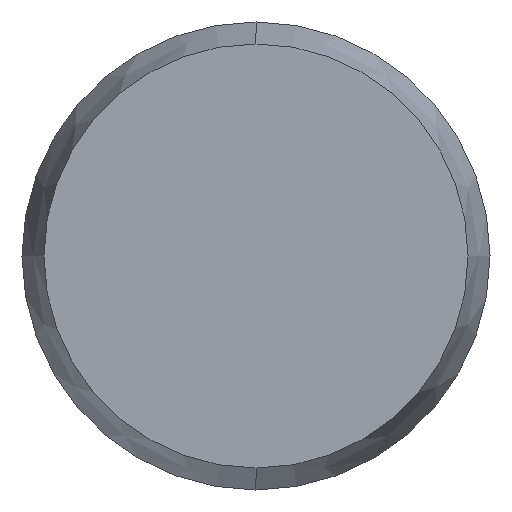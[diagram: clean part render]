
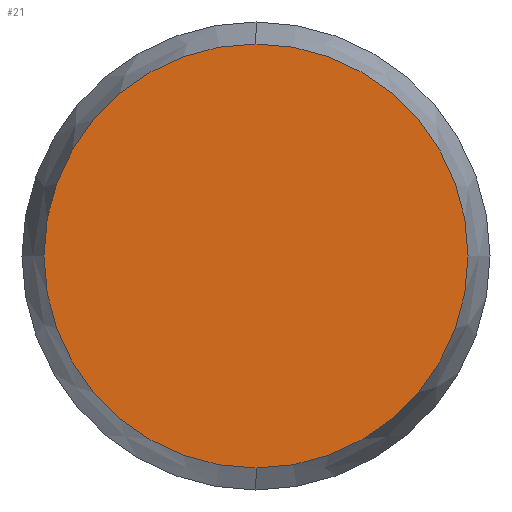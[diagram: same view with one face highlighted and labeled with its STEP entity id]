
A CAD part, left-side view. The second image highlights one B-rep face of the part: STEP entity #21.
In plain terms, the highlighted planar face has unit normal (-1, 0, 0).
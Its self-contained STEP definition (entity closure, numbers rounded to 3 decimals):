
#6 = ORIENTED_EDGE ( 'NONE', *, *, #17, .F. ) ;
#7 = ORIENTED_EDGE ( 'NONE', *, *, #60, .F. ) ;
#17 = EDGE_CURVE ( 'NONE', #51, #50, #78, .T. ) ;
#21 = ADVANCED_FACE ( 'NONE', ( #202 ), #201, .F. ) ;
#22 = EDGE_LOOP ( 'NONE', ( #7, #6 ) ) ;
#50 = VERTEX_POINT ( 'NONE', #120 ) ;
#51 = VERTEX_POINT ( 'NONE', #119 ) ;
#60 = EDGE_CURVE ( 'NONE', #50, #51, #107, .T. ) ;
#69 = DIRECTION ( 'NONE',  ( 0., 0., -1. ) ) ;
#70 = DIRECTION ( 'NONE',  ( 1., 0., 0. ) ) ;
#71 = CARTESIAN_POINT ( 'NONE',  ( -2.5, 0., 0. ) ) ;
#77 = AXIS2_PLACEMENT_3D ( 'NONE', #71, #70, #69 ) ;
#78 = CIRCLE ( 'NONE', #77, 1.812 ) ;
#103 = DIRECTION ( 'NONE',  ( 0., 0., -1. ) ) ;
#104 = DIRECTION ( 'NONE',  ( 1., 0., 0. ) ) ;
#105 = CARTESIAN_POINT ( 'NONE',  ( -2.5, 0., 0. ) ) ;
#106 = AXIS2_PLACEMENT_3D ( 'NONE', #105, #104, #103 ) ;
#107 = CIRCLE ( 'NONE', #106, 1.812 ) ;
#119 = CARTESIAN_POINT ( 'NONE',  ( -2.5, 0., -1.812 ) ) ;
#120 = CARTESIAN_POINT ( 'NONE',  ( -2.5, 0., 1.812 ) ) ;
#197 = DIRECTION ( 'NONE',  ( 0., 0., -1. ) ) ;
#198 = DIRECTION ( 'NONE',  ( 1., 0., 0. ) ) ;
#199 = CARTESIAN_POINT ( 'NONE',  ( -2.5, 0., 0. ) ) ;
#200 = AXIS2_PLACEMENT_3D ( 'NONE', #199, #198, #197 ) ;
#201 = PLANE ( 'NONE',  #200 ) ;
#202 = FACE_OUTER_BOUND ( 'NONE', #22, .T. ) ;
